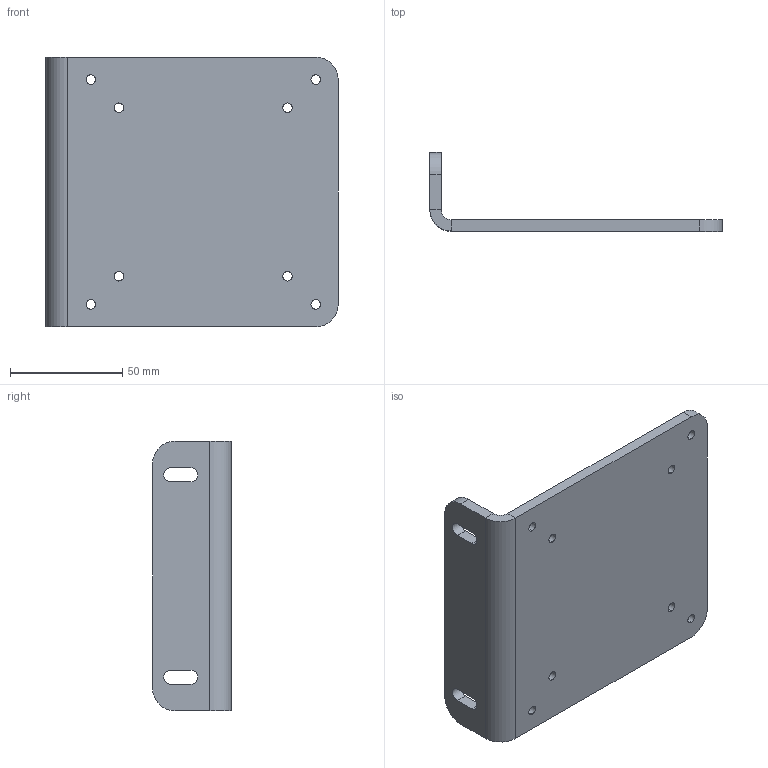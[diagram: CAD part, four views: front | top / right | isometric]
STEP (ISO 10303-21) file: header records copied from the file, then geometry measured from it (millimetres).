
FILE_DESCRIPTION (( 'STEP AP214' ), '1' );
FILE_NAME ('Monitor mount.STEP', '2019-10-23T19:04:25', ( '' ), ( '' ), 'SwSTEP 2.0', 'SolidWorks 2018', '' );
FILE_SCHEMA (( 'AUTOMOTIVE_DESIGN' ));
Length unit declared in the file: millimetre
Products named in the file (1): Monitor mount
Bounding box: 130 x 35 x 120 mm (x, y, z)
Volume: 92341.2 mm3; surface area: 40522.9 mm2
Topology: 1 solids, 1 shells, 44 faces, 118 edges, 76 vertices
Faces by surface type: cylinder 28, plane 16
Entity records: 1468 total; most frequent: DIRECTION 264, CARTESIAN_POINT 239, ORIENTED_EDGE 236, EDGE_CURVE 118, AXIS2_PLACEMENT_3D 101, VERTEX_POINT 76, EDGE_LOOP 64, LINE 62
